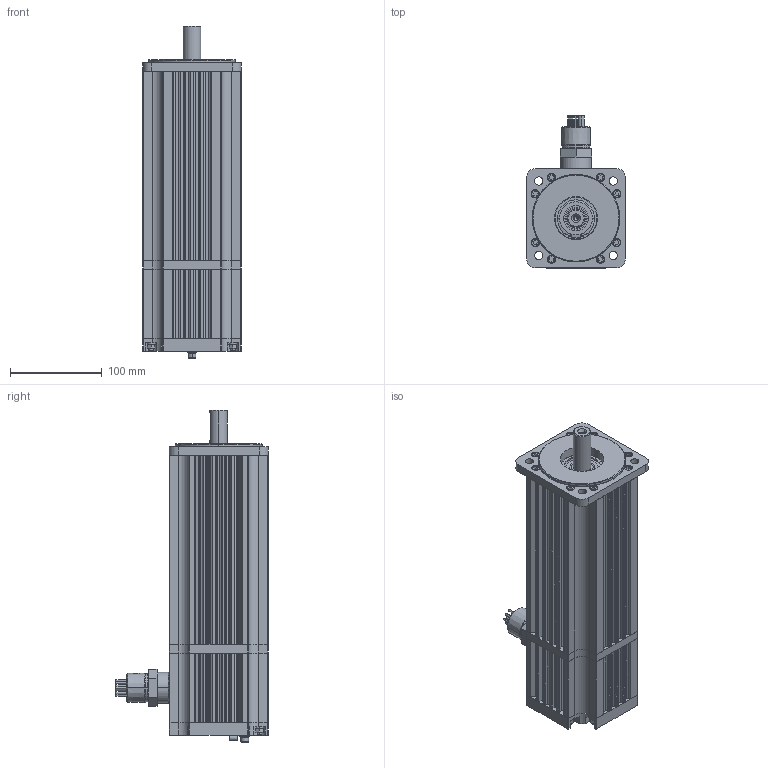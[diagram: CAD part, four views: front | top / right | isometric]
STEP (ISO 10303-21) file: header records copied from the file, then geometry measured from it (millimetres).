
FILE_DESCRIPTION (( 'STEP AP203' ), '1' );
FILE_NAME ('M442-KNN0-9T08.STEP', '2007-08-23T21:51:41', ( '' ), ( '' ), 'SwSTEP 2.0', 'SolidWorks 2007', '' );
FILE_SCHEMA (( 'CONFIG_CONTROL_DESIGN' ));
Length unit declared in the file: inch
Products named in the file (1): M442-KNN0-9T08
Bounding box: 108 x 166.17 x 362.4 mm (x, y, z)
Volume: 1856688.4 mm3; surface area: 455946.7 mm2
Topology: 41 solids, 41 shells, 1788 faces, 4387 edges, 2769 vertices
Faces by surface type: cylinder 799, plane 637, cone 242, torus 89, bspline 21
Entity records: 55695 total; most frequent: CARTESIAN_POINT 12349, DIRECTION 9575, ORIENTED_EDGE 8646, EDGE_CURVE 4323, AXIS2_PLACEMENT_3D 3700, VERTEX_POINT 2769, VECTOR 2175, LINE 2175
